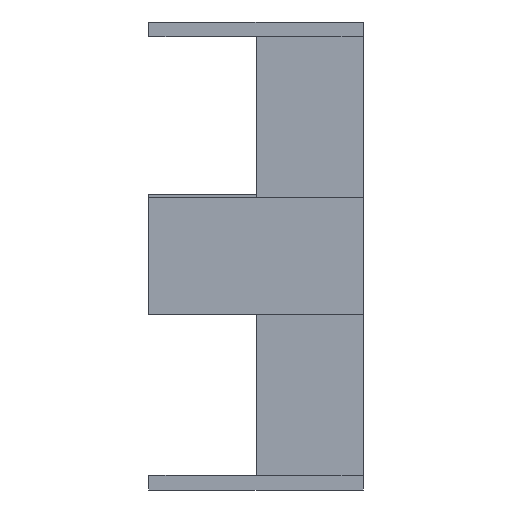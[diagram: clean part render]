
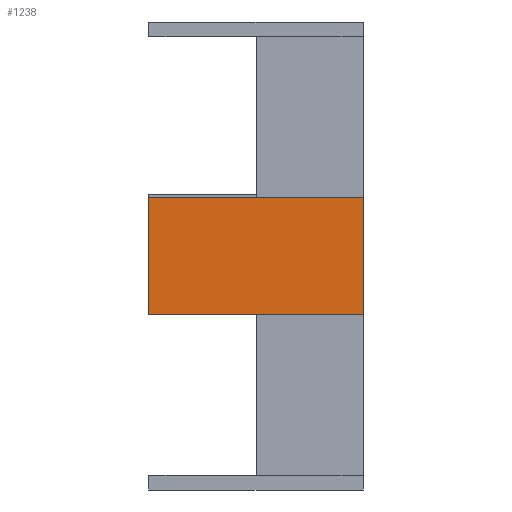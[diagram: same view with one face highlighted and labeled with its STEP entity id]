
A CAD part, left-side view. The second image highlights one B-rep face of the part: STEP entity #1238.
In plain terms, the highlighted planar face has unit normal (-1, 0, 0).
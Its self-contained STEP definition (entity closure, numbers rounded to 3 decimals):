
#64=PLANE('',#1334);
#130=FACE_OUTER_BOUND('',#200,.T.);
#200=EDGE_LOOP('',(#1040,#1041,#1042,#1043));
#336=LINE('',#1931,#492);
#337=LINE('',#1934,#493);
#338=LINE('',#1936,#494);
#339=LINE('',#1937,#495);
#492=VECTOR('',#1586,10.);
#493=VECTOR('',#1589,10.);
#494=VECTOR('',#1590,10.);
#495=VECTOR('',#1591,10.);
#639=VERTEX_POINT('',#1925);
#641=VERTEX_POINT('',#1929);
#642=VERTEX_POINT('',#1933);
#643=VERTEX_POINT('',#1935);
#792=EDGE_CURVE('',#639,#641,#336,.T.);
#793=EDGE_CURVE('',#642,#639,#337,.T.);
#794=EDGE_CURVE('',#643,#641,#338,.T.);
#795=EDGE_CURVE('',#642,#643,#339,.T.);
#1040=ORIENTED_EDGE('',*,*,#793,.T.);
#1041=ORIENTED_EDGE('',*,*,#792,.T.);
#1042=ORIENTED_EDGE('',*,*,#794,.F.);
#1043=ORIENTED_EDGE('',*,*,#795,.F.);
#1238=ADVANCED_FACE('',(#130),#64,.T.);
#1334=AXIS2_PLACEMENT_3D('',#1932,#1587,#1588);
#1586=DIRECTION('',(0.,1.,0.));
#1587=DIRECTION('center_axis',(-1.,0.,0.));
#1588=DIRECTION('ref_axis',(0.,0.,1.));
#1589=DIRECTION('',(0.,0.,1.));
#1590=DIRECTION('',(0.,0.,1.));
#1591=DIRECTION('',(0.,1.,0.));
#1925=CARTESIAN_POINT('',(-2.5,0.,-27.7));
#1929=CARTESIAN_POINT('',(-2.5,36.8,-27.7));
#1931=CARTESIAN_POINT('',(-2.5,0.,-27.7));
#1932=CARTESIAN_POINT('Origin',(-2.5,0.,-47.7));
#1933=CARTESIAN_POINT('',(-2.5,0.,-47.7));
#1934=CARTESIAN_POINT('',(-2.5,0.,-47.7));
#1935=CARTESIAN_POINT('',(-2.5,36.8,-47.7));
#1936=CARTESIAN_POINT('',(-2.5,36.8,-47.7));
#1937=CARTESIAN_POINT('',(-2.5,0.,-47.7));
